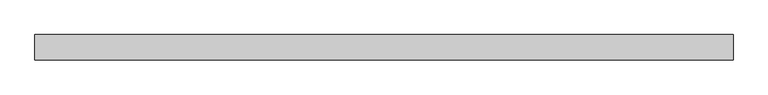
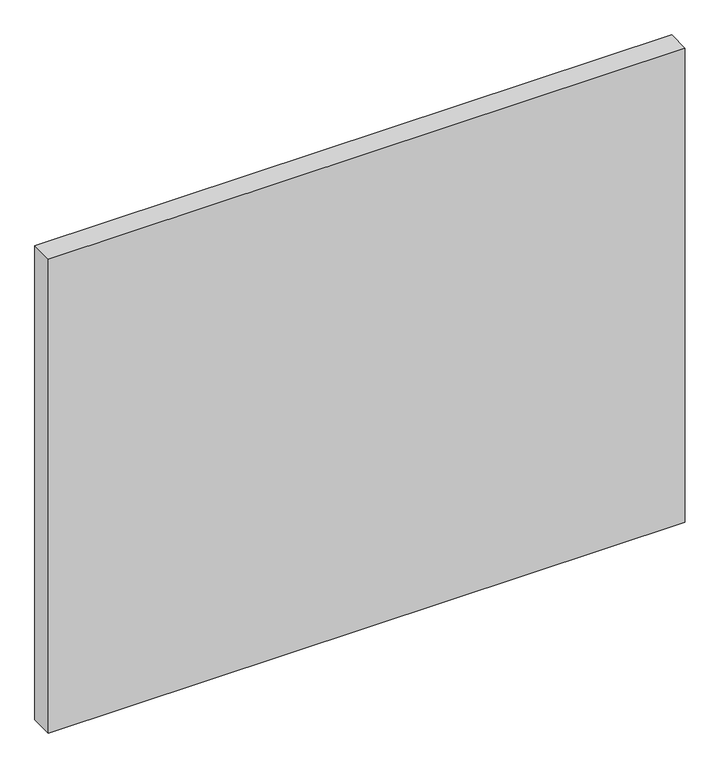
"""IFC4 building model written with IfcOpenShell, lengths in millimetres: plate geometry, Системная панель : Стекло(50мм)."""

from ifc_helpers import new_model, si_unit, origin, origin_with_axes, place, context, project, spatial, polyline, outline, extrude, source, transform, mapped, element, save


def plate_88a3cac9(model_context):
    return source(origin(), model_context, "Body", "SweptSolid", [
        extrude(outline(polyline([(690.0, -25.0), (-690.0, -25.0), (-690.0, 25.0), (690.0, 25.0), (690.0, -25.0)])), origin_with_axes(), (0.0, 0.0, 1.0), 1085.0),
    ])


if __name__ == "__main__":
    model = new_model("IFC4")
    model_context = context("Model", 3, world=origin())
    ifc_project = project(units=[si_unit("LENGTHUNIT", "METRE", prefix="MILLI")], contexts=[model_context])
    site = spatial("IfcSite", under=ifc_project)
    building = spatial("IfcBuilding", under=site)
    placement = place(None, origin())
    plate_shape = plate_88a3cac9(model_context)
    element("IfcPlate", 1, ObjectType="Системная панель : Стекло(50мм)", at=placement, inside=building, context=model_context, shape_type="MappedRepresentation", body=[
        mapped(plate_shape, transform((0.0, 0.0, 0.0), x_axis=(1.0, 0.0, 0.0), y_axis=(0.0, 1.0, 0.0), z_axis=(0.0, 0.0, 1.0))),
    ])
    save(model, "model.ifc")
